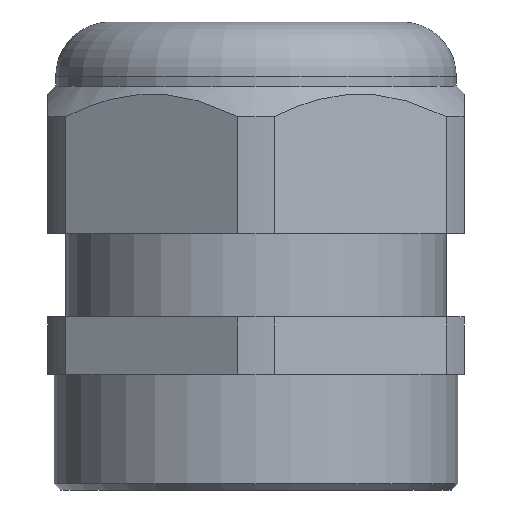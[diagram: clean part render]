
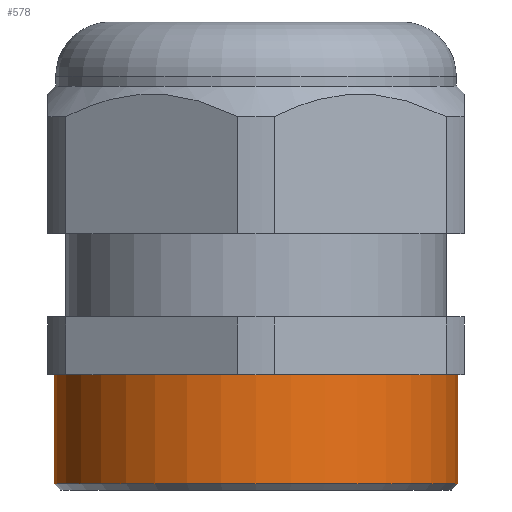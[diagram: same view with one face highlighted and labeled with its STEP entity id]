
A CAD part, front view. The second image highlights one B-rep face of the part: STEP entity #578.
In plain terms, the highlighted cylindrical face has radius 31.5 mm (diameter 63 mm), a partial arc.
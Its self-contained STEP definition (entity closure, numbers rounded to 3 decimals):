
#443 = EDGE_CURVE ( 'NONE', #444, #451, #1732, .T. ) ;
#444 = VERTEX_POINT ( 'NONE', #1734 ) ;
#445 = VERTEX_POINT ( 'NONE', #1776 ) ;
#448 = EDGE_CURVE ( 'NONE', #445, #449, #1793, .T. ) ;
#449 = VERTEX_POINT ( 'NONE', #1763 ) ;
#451 = VERTEX_POINT ( 'NONE', #1754 ) ;
#561 = EDGE_CURVE ( 'NONE', #445, #444, #1103, .T. ) ;
#564 = ORIENTED_EDGE ( 'NONE', *, *, #448, .F. ) ;
#566 = EDGE_LOOP ( 'NONE', ( #564, #567, #577, #579 ) ) ;
#567 = ORIENTED_EDGE ( 'NONE', *, *, #561, .T. ) ;
#569 = EDGE_CURVE ( 'NONE', #449, #451, #1085, .T. ) ;
#577 = ORIENTED_EDGE ( 'NONE', *, *, #443, .T. ) ;
#578 = ADVANCED_FACE ( 'NONE', ( #1130 ), #1128, .T. ) ;
#579 = ORIENTED_EDGE ( 'NONE', *, *, #569, .F. ) ;
#1085 = CIRCLE ( 'NONE', #1149, 31.5 ) ;
#1099 = DIRECTION ( 'NONE',  ( -1., 0., 0. ) ) ;
#1100 = DIRECTION ( 'NONE',  ( 0., 0., -1. ) ) ;
#1101 = CARTESIAN_POINT ( 'NONE',  ( 0., 0., 18. ) ) ;
#1102 = AXIS2_PLACEMENT_3D ( 'NONE', #1101, #1100, #1099 ) ;
#1103 = CIRCLE ( 'NONE', #1102, 31.5 ) ;
#1125 = DIRECTION ( 'NONE',  ( -1., 0., 0. ) ) ;
#1126 = DIRECTION ( 'NONE',  ( 0., 0., -1. ) ) ;
#1127 = AXIS2_PLACEMENT_3D ( 'NONE', #1129, #1126, #1125 ) ;
#1128 = CYLINDRICAL_SURFACE ( 'NONE', #1127, 31.5 ) ;
#1129 = CARTESIAN_POINT ( 'NONE',  ( 0., 0., 0. ) ) ;
#1130 = FACE_OUTER_BOUND ( 'NONE', #566, .T. ) ;
#1146 = DIRECTION ( 'NONE',  ( -1., 0., 0. ) ) ;
#1147 = DIRECTION ( 'NONE',  ( 0., 0., -1. ) ) ;
#1148 = CARTESIAN_POINT ( 'NONE',  ( 0., 0., 1. ) ) ;
#1149 = AXIS2_PLACEMENT_3D ( 'NONE', #1148, #1147, #1146 ) ;
#1731 = CARTESIAN_POINT ( 'NONE',  ( -31.5, 0., 0. ) ) ;
#1732 = LINE ( 'NONE', #1731, #1736 ) ;
#1734 = CARTESIAN_POINT ( 'NONE',  ( -31.5, 0., 18. ) ) ;
#1735 = DIRECTION ( 'NONE',  ( 0., 0., -1. ) ) ;
#1736 = VECTOR ( 'NONE', #1735, 1000. ) ;
#1754 = CARTESIAN_POINT ( 'NONE',  ( -31.5, 0., 1. ) ) ;
#1763 = CARTESIAN_POINT ( 'NONE',  ( 31.5, 0., 1. ) ) ;
#1764 = DIRECTION ( 'NONE',  ( 0., 0., -1. ) ) ;
#1776 = CARTESIAN_POINT ( 'NONE',  ( 31.5, 0., 18. ) ) ;
#1791 = VECTOR ( 'NONE', #1764, 1000. ) ;
#1792 = CARTESIAN_POINT ( 'NONE',  ( 31.5, 0., 0. ) ) ;
#1793 = LINE ( 'NONE', #1792, #1791 ) ;
